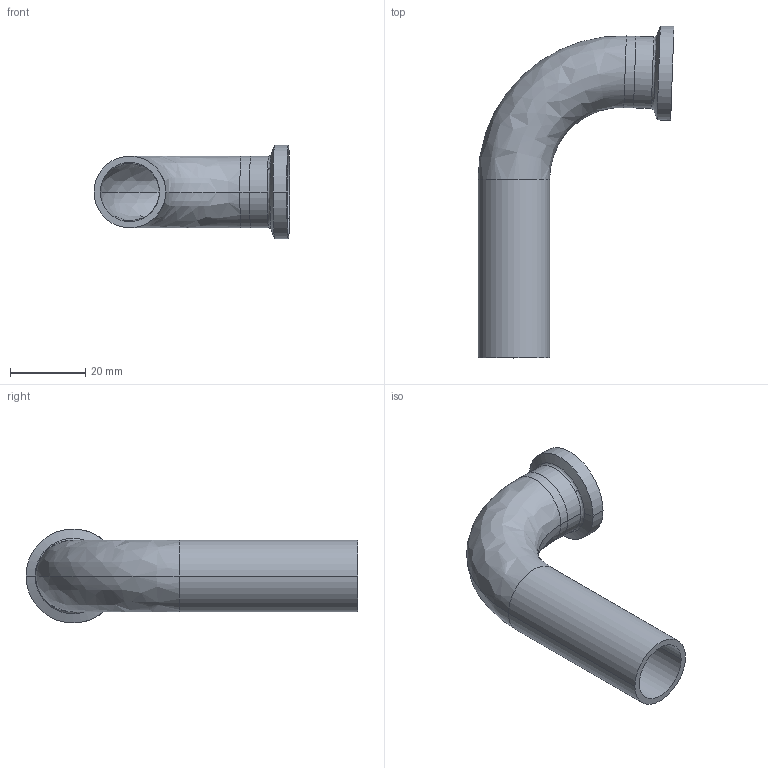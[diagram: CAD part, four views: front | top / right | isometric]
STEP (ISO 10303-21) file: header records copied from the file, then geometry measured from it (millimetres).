
FILE_DESCRIPTION (( 'STEP AP214' ), '1' );
FILE_NAME ('TE2C926L.75-...STEP', '2016-05-22T11:01:44', ( 'eran' ), ( '' ), 'SwSTEP 2.0', 'SolidWorks 2016', '' );
FILE_SCHEMA (( 'AUTOMOTIVE_DESIGN' ));
Length unit declared in the file: millimetre
Products named in the file (1): TE2C926L.75-..
Bounding box: 52.12 x 88.31 x 24.99 mm (x, y, z)
Volume: 10146.6 mm3; surface area: 12469.2 mm2
Topology: 2 solids, 2 shells, 37 faces, 86 edges, 54 vertices
Faces by surface type: cylinder 16, bspline 12, plane 5, cone 4
Entity records: 1265 total; most frequent: CARTESIAN_POINT 370, DIRECTION 196, ORIENTED_EDGE 172, AXIS2_PLACEMENT_3D 88, EDGE_CURVE 86, CIRCLE 62, VERTEX_POINT 54, EDGE_LOOP 42
